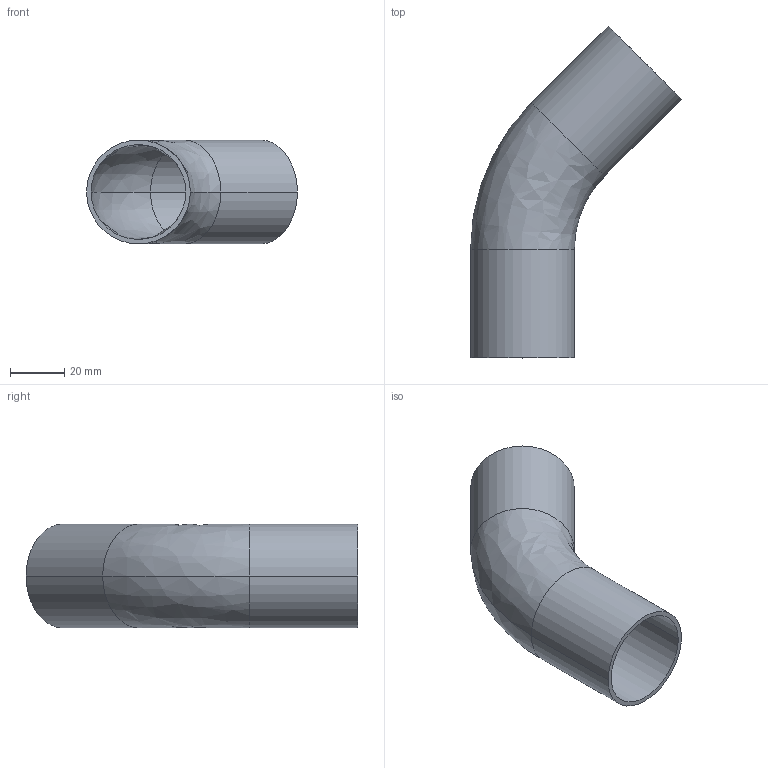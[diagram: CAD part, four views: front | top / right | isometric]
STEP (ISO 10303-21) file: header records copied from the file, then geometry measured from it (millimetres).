
FILE_DESCRIPTION (( 'STEP AP214' ), '1' );
FILE_NAME ('TE2KS6L1.5-...STEP', '2016-05-22T06:51:46', ( 'eran' ), ( '' ), 'SwSTEP 2.0', 'SolidWorks 2016', '' );
FILE_SCHEMA (( 'AUTOMOTIVE_DESIGN' ));
Length unit declared in the file: millimetre
Products named in the file (1): TE2KS6L1.5-..
Bounding box: 77.42 x 121.87 x 38.1 mm (x, y, z)
Volume: 23530.8 mm3; surface area: 28900 mm2
Topology: 1 solids, 1 shells, 14 faces, 28 edges, 16 vertices
Faces by surface type: cylinder 8, bspline 4, plane 2
Entity records: 450 total; most frequent: CARTESIAN_POINT 119, DIRECTION 70, ORIENTED_EDGE 56, AXIS2_PLACEMENT_3D 31, EDGE_CURVE 28, CIRCLE 20, VERTEX_POINT 16, EDGE_LOOP 16
